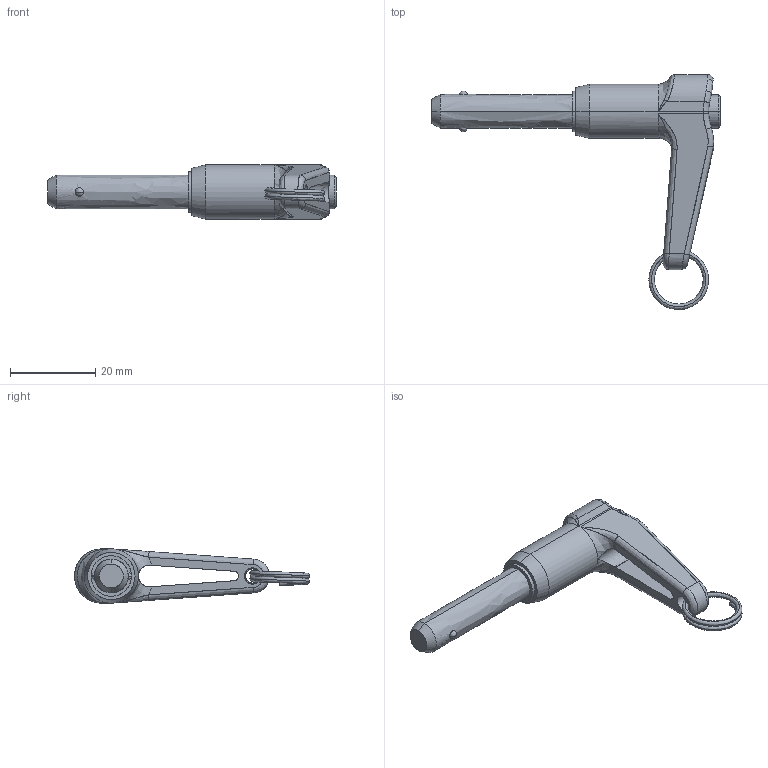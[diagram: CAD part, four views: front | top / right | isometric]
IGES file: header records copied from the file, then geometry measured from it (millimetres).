
Start section: SolidWorks IGES file using analytic representation for surfaces
Global section: file name: C:\Documents and Settings\IANO\My Documents\Wix and Auto CAD Work\CAD Models\Parametric Models\Wix Models\30000\33620_v2\33620_v2_20160606_IGES\33620.C010.igs; native system: SolidWorks 2009; preprocessor: SolidWorks 2009; author: IANO; date: 160615.125740; units: inch
Bounding box: 67.65 x 55.09 x 12.7 mm (x, y, z)
Surface area: 5581 mm2 (no closed solid volume)
Topology: 0 solids, 0 shells, 85 faces, 1226 edges, 1224 vertices
Faces by surface type: bspline 55, revolution 30
